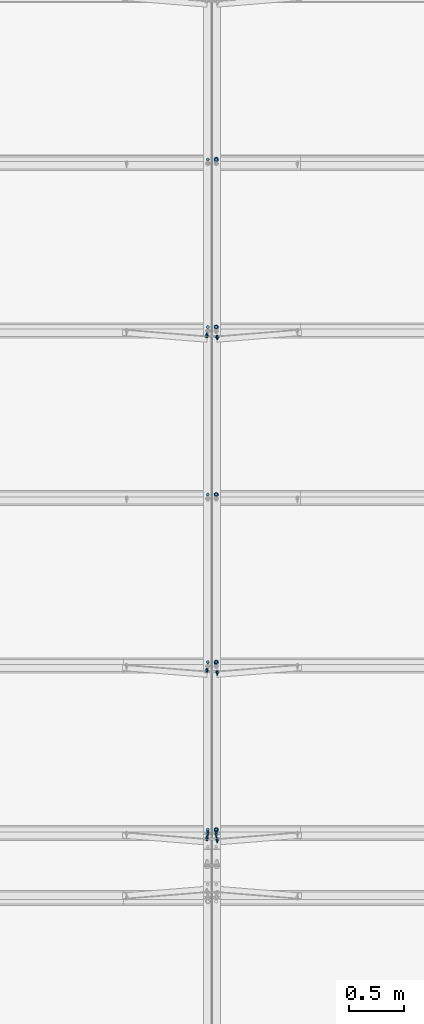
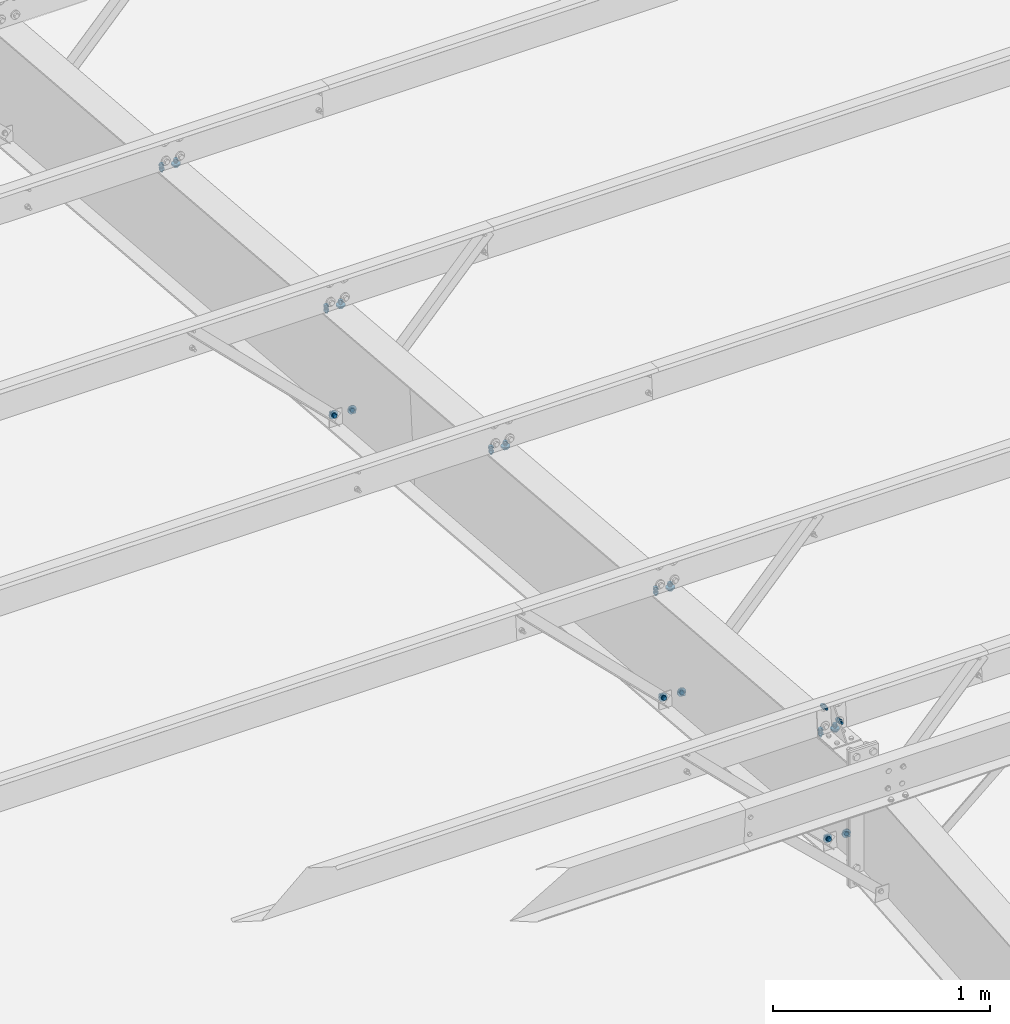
# One storey, part 157 of 185: 24 mechanical fasteners, 13 elements without a shape of their own.
"""IFC2X3 building model written with IfcOpenShell, lengths in millimetres."""

import ifcopenshell
import ifcopenshell.guid

model = None  # the IFC model being written
_history = None  # IfcOwnerHistory: only IFC2X3 demands one
_inside = {}  # id of a spatial element -> (the spatial element, [elements in it])
_under = {}  # id of a project, library or spatial element -> (it, [spatial elements below it])
_declared = {}  # id of a project -> (the project, [libraries it declares])
_typed = {}  # id of a type object -> (the type object, [elements of that type])
_made_of = {}  # id of a material, layer set ... -> (it, [elements and type objects made of it])


def new_model(schema):
    """Start an empty IFC model of exactly this schema.

    Asked for "IFC4X3", IfcOpenShell would pick the latest addendum, in which some entities
    have other attributes; the version numbers below select the first issue.
    IFC2X3 requires an IfcOwnerHistory on every rooted entity: one is made here for all.
    """
    global model, _history
    if schema == "IFC4X3":
        model = ifcopenshell.file(schema_version=(4, 3, 0, 0))
    else:
        model = ifcopenshell.file(schema=schema)
    _inside.clear()
    _under.clear()
    _declared.clear()
    _typed.clear()
    _made_of.clear()
    _history = None
    if model.schema == "IFC2X3":
        org = make("IfcOrganization", Name="unknown")
        user = make(
            "IfcPersonAndOrganization",
            ThePerson=make("IfcPerson", FamilyName="unknown"),
            TheOrganization=org,
        )
        app = make(
            "IfcApplication",
            ApplicationDeveloper=org,
            Version="unknown",
            ApplicationFullName="unknown",
            ApplicationIdentifier="unknown",
        )
        _history = make(
            "IfcOwnerHistory",
            OwningUser=user,
            OwningApplication=app,
            ChangeAction="ADDED",
            CreationDate=0,
        )
    return model


def make(cls, **values):
    """One entity of the class cls with the attributes given. An attribute that is None is left unset."""
    return model.create_entity(
        cls, **{name: value for name, value in values.items() if value is not None}
    )


def rooted(cls, **values):
    """An entity with a GlobalId (a new one), such as an element, a storey or a relation."""
    return make(cls, GlobalId=ifcopenshell.guid.new(), OwnerHistory=_history, **values)


def si_unit(unit_type, name, prefix=None):
    """IfcSIUnit, for example si_unit("LENGTHUNIT", "METRE", prefix="MILLI")."""
    return make("IfcSIUnit", UnitType=unit_type, Prefix=prefix, Name=name)


def assignment(units):
    """IfcUnitAssignment: the units of a project."""
    return None if units is None else make("IfcUnitAssignment", Units=units)


def point(xyz):
    """IfcCartesianPoint."""
    return None if xyz is None else make("IfcCartesianPoint", Coordinates=xyz)


def direction(xyz):
    """IfcDirection."""
    return None if xyz is None else make("IfcDirection", DirectionRatios=xyz)


def frame(location, z_axis=None, x_axis=None):
    """IfcAxis2Placement3D, a coordinate frame: its origin and axes. An axis left out is left unset."""
    return make(
        "IfcAxis2Placement3D",
        Location=point(location),
        Axis=direction(z_axis),
        RefDirection=direction(x_axis),
    )


def frame_2d(location, x_axis=None):
    """IfcAxis2Placement2D, a coordinate frame in the plane: its origin and x axis."""
    return make(
        "IfcAxis2Placement2D", Location=point(location), RefDirection=direction(x_axis)
    )


def origin_with_axes():
    """The frame at (0, 0, 0) with the z axis (0, 0, 1) and the x axis (1, 0, 0) written out."""
    return frame((0.0, 0.0, 0.0), z_axis=(0.0, 0.0, 1.0), x_axis=(1.0, 0.0, 0.0))


def origin_2d_with_axis():
    """The frame at (0, 0) in the plane with the x axis (1, 0) written out."""
    return frame_2d((0.0, 0.0), x_axis=(1.0, 0.0))


def place(relative_to, where):
    """IfcLocalPlacement: puts the frame where relative to a parent placement (None: the world)."""
    return make(
        "IfcLocalPlacement", PlacementRelTo=relative_to, RelativePlacement=where
    )


def context(
    kind, dimensions, precision=None, world=None, true_north=None, identifier=None
):
    """IfcGeometricRepresentationContext, for example the 3D "Model" context."""
    return make(
        "IfcGeometricRepresentationContext",
        ContextIdentifier=identifier,
        ContextType=kind,
        CoordinateSpaceDimension=dimensions,
        Precision=precision,
        WorldCoordinateSystem=world,
        TrueNorth=true_north,
    )


def subcontext(parent, identifier, kind, view, scale=None):
    """IfcGeometricRepresentationSubContext, for example "Body" below "Model"."""
    return make(
        "IfcGeometricRepresentationSubContext",
        ContextIdentifier=identifier,
        ContextType=kind,
        ParentContext=parent,
        TargetScale=scale,
        TargetView=view,
    )


def project(units=None, contexts=None):
    """IfcProject with its units and contexts."""
    return rooted(
        "IfcProject",
        Name="project",
        RepresentationContexts=contexts,
        UnitsInContext=assignment(units),
    )


def spatial(cls, under=None, at=None, **own):
    """A site, building, storey or space (cls), placed at a placement, below another one or the project."""
    s = rooted(cls, ObjectPlacement=at, **own)
    if under is not None:
        _under.setdefault(under.id(), (under, []))[1].append(s)
    return s


def polyline(points):
    """IfcPolyline through the points."""
    return make("IfcPolyline", Points=[point(p) for p in points])


def profile(cls, at=None, kind="AREA", **sizes):
    """A parametric profile (cls). Its sizes go by their IFC names, for example OverallWidth=200.0."""
    return make(cls, ProfileType=kind, Position=at, **sizes)


def circle(**sizes):
    """IfcCircleProfileDef."""
    return profile("IfcCircleProfileDef", **sizes)


def outline(outer, holes=None, kind="AREA"):
    """IfcArbitraryClosedProfileDef: a profile drawn as a closed curve; with holes, ...WithVoids."""
    if holes is None:
        return make("IfcArbitraryClosedProfileDef", ProfileType=kind, OuterCurve=outer)
    return make(
        "IfcArbitraryProfileDefWithVoids",
        ProfileType=kind,
        OuterCurve=outer,
        InnerCurves=holes,
    )


def extrude(swept, where, along, depth):
    """IfcExtrudedAreaSolid: the profile swept, set in the frame where, extruded along a direction by depth."""
    return make(
        "IfcExtrudedAreaSolid",
        SweptArea=swept,
        Position=where,
        ExtrudedDirection=direction(along),
        Depth=depth,
    )


def shape(context_of_items, identifier, shape_type, items):
    """IfcShapeRepresentation: the items that make up one representation, for example the "Body"."""
    return make(
        "IfcShapeRepresentation",
        ContextOfItems=context_of_items,
        RepresentationIdentifier=identifier,
        RepresentationType=shape_type,
        Items=items,
    )


def source(mapping_origin, context_of_items, identifier, shape_type, items):
    """IfcRepresentationMap: a shape defined once, which mapped items show again and again."""
    return make(
        "IfcRepresentationMap",
        MappingOrigin=mapping_origin,
        MappedRepresentation=shape(context_of_items, identifier, shape_type, items),
    )


def transform(
    local_origin,
    x_axis=None,
    y_axis=None,
    z_axis=None,
    scale=None,
    scale2=None,
    scale3=None,
    uniform=True,
):
    """IfcCartesianTransformationOperator3D, or its non-uniform kind. x_axis, y_axis, z_axis: its Axis1, 2, 3."""
    if uniform:
        return make(
            "IfcCartesianTransformationOperator3D",
            Axis1=direction(x_axis),
            Axis2=direction(y_axis),
            LocalOrigin=point(local_origin),
            Scale=scale,
            Axis3=direction(z_axis),
        )
    return make(
        "IfcCartesianTransformationOperator3DnonUniform",
        Axis1=direction(x_axis),
        Axis2=direction(y_axis),
        LocalOrigin=point(local_origin),
        Scale=scale,
        Axis3=direction(z_axis),
        Scale2=scale2,
        Scale3=scale3,
    )


def mapped(mapping_source, mapping_target):
    """IfcMappedItem: shows the shape of a source again, moved by a transform."""
    return make(
        "IfcMappedItem", MappingSource=mapping_source, MappingTarget=mapping_target
    )


def material(Name=None, Category=None):
    """IfcMaterial."""
    return make("IfcMaterial", Name=Name, Category=Category)


def made_of(thing, what):
    """Note that an element or type object is made of a material, layer set ...; save() writes the relation."""
    if what is not None:
        _made_of.setdefault(what.id(), (what, []))[1].append(thing)
    return thing


def type_object(cls, material=None, **own):
    """A type object (cls), such as IfcWallType, which elements share."""
    return made_of(rooted(cls, **own), material)


def element(
    cls,
    number,
    at=None,
    inside=None,
    cuts=None,
    type_object=None,
    material=None,
    context=None,
    identifier="Body",
    shape_type=None,
    held_by="IfcProductDefinitionShape",
    body=None,
    shapes=None,
    **own,
):
    """One element of the class cls, such as IfcWall. Its Tag is "e" and its number.

    at: its placement. inside: the storey or other place that contains it. cuts: it is an
    opening in that element (IfcRelVoidsElement). A single representation is given by context,
    identifier, shape_type and body (its items); several are given by shapes. held_by: the class
    of the entity that holds the representations. save() writes the other relations.
    """
    e = rooted(cls, Tag="e%d" % number, ObjectPlacement=at, **own)
    if body is not None:
        shapes = [shape(context, identifier, shape_type, body)]
    if shapes is not None:
        e.Representation = make(held_by, Representations=shapes)
    if inside is not None:
        _inside.setdefault(inside.id(), (inside, []))[1].append(e)
    if cuts is not None:
        rooted(
            "IfcRelVoidsElement", RelatingBuildingElement=cuts, RelatedOpeningElement=e
        )
    if type_object is not None:
        _typed.setdefault(type_object.id(), (type_object, []))[1].append(e)
    return made_of(e, material)


def aggregate(whole, parts):
    """IfcRelAggregates: a whole, such as a stair, and the parts it consists of."""
    return rooted("IfcRelAggregates", RelatingObject=whole, RelatedObjects=parts)


def save(model, path):
    """Write the relations noted so far, then the file.

    IfcRelAggregates (storeys below a building ...), IfcRelContainedInSpatialStructure (elements
    in a storey), IfcRelDefinesByType, IfcRelAssociatesMaterial and IfcRelDeclares: one each for
    every whole, place, type object, material and project.
    """
    for whole, parts in _under.values():
        aggregate(whole, parts)
    for where, things in _inside.values():
        rooted(
            "IfcRelContainedInSpatialStructure",
            RelatedElements=things,
            RelatingStructure=where,
        )
    for kind, things in _typed.values():
        rooted("IfcRelDefinesByType", RelatedObjects=things, RelatingType=kind)
    for what, things in _made_of.values():
        rooted("IfcRelAssociatesMaterial", RelatedObjects=things, RelatingMaterial=what)
    for by, libraries in _declared.values():
        rooted("IfcRelDeclares", RelatingContext=by, RelatedDefinitions=libraries)
    model.write(path)


model = new_model("IFC2X3")

# Units and contexts
model_context = context("Model", 3, precision=1e-05, world=origin_with_axes())
body_context = subcontext(model_context, "Body", "Model", "MODEL_VIEW")
ifc_project = project(units=[si_unit("LENGTHUNIT", "METRE", prefix="MILLI"), si_unit("AREAUNIT", "SQUARE_METRE"), si_unit("VOLUMEUNIT", "CUBIC_METRE"), si_unit("MASSUNIT", "GRAM", prefix="KILO"), si_unit("TIMEUNIT", "SECOND"), si_unit("PLANEANGLEUNIT", "RADIAN"), si_unit("SOLIDANGLEUNIT", "STERADIAN"), si_unit("THERMODYNAMICTEMPERATUREUNIT", "DEGREE_CELSIUS"), si_unit("LUMINOUSINTENSITYUNIT", "LUMEN")], contexts=[model_context])

# Site, building, storey
site_placement = place(None, origin_with_axes())
site = spatial("IfcSite", under=ifc_project, at=site_placement, Name="Undefined", CompositionType="ELEMENT")
building_placement = place(site_placement, origin_with_axes())
building = spatial("IfcBuilding", under=site, at=building_placement, Name="Undefined", CompositionType="ELEMENT")
storey_placement = place(building_placement, origin_with_axes())
storey = spatial("IfcBuildingStorey", under=building, at=storey_placement, Name="Undefined", CompositionType="ELEMENT", Elevation=0.0)

# Assembly, mechanical fastener
assembly_1_placement = place(storey_placement, origin_with_axes())
assembly_1 = element("IfcElementAssembly", 1, at=assembly_1_placement, inside=storey, Name="Steel Assembly", AssemblyPlace="NOTDEFINED", PredefinedType="RIGID_FRAME")
ifc_material_1 = material(Name="Undefined")
discrete_accessory_type = type_object("IfcDiscreteAccessoryType", Name="Bolt assembly")
shared_shape_1 = source(origin_with_axes(), body_context, "Body", "SweptSolid", [
    extrude(circle(Radius=7.14374971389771, at=origin_2d_with_axis()), frame((0.0, -1.59000001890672, 0.0), z_axis=(0.0, 1.0, 0.0), x_axis=(1.0, 0.0, 0.0)), (0.0, 0.0, 1.0), 1.7),
    extrude(outline(polyline([(10.9985221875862, 0.0), (5.4992610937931, 9.52499961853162), (-5.4992610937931, 9.52499961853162), (-10.9985221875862, 0.0), (-5.4992610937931, -9.52499961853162), (5.4992610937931, -9.52499961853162), (10.9985221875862, 0.0)])), frame((0.0, -15.0837496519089, 0.0), z_axis=(0.0, 1.0, 0.0), x_axis=(1.0, 0.0, 0.0)), (0.0, 0.0, 1.0), 9.5),
    extrude(circle(Radius=6.34999990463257, at=origin_2d_with_axis()), frame((0.0, -5.5587500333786, 0.0), z_axis=(0.0, 1.0, 0.0), x_axis=(1.0, 0.0, 0.0)), (0.0, 0.0, 1.0), 38.1),
    extrude(circle(Radius=13.4937496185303, at=origin_2d_with_axis()), frame((0.0, -5.5587500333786, 0.0), z_axis=(0.0, 1.0, 0.0), x_axis=(1.0, 0.0, 0.0)), (0.0, 0.0, 1.0), 4.0),
    extrude(circle(Radius=22.2250003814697, at=origin_2d_with_axis()), frame((0.0, 0.0, 0.0), z_axis=(0.0, 1.0, 0.0), x_axis=(1.0, 0.0, 0.0)), (0.0, 0.0, 1.0), 7.9),
    extrude(outline(polyline([(12.8316099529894, 0.0), (6.4158049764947, 11.1125001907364), (-6.4158049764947, 11.1125001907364), (-12.8316099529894, 0.0), (-6.4158049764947, -11.1125001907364), (6.4158049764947, -11.1125001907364), (12.8316099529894, 0.0)])), frame((0.0, 7.93750000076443, 0.0), z_axis=(0.0, 1.0, 0.0), x_axis=(1.0, 0.0, 0.0)), (0.0, 0.0, 1.0), 12.3),
])
mechanical_fastener_1_placement = place(assembly_1_placement, frame((22432.1255043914, 16242.6547918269, 6647.0846051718), z_axis=(-0.697745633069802, -0.0594892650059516, -0.713871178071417), x_axis=(-0.716345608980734, 0.0579446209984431, 0.6953354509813)))
mechanical_fastener_1 = element("IfcMechanicalFastener", 2, at=mechanical_fastener_1_placement, type_object=discrete_accessory_type, material=ifc_material_1, Name="Bolt assembly", NominalDiameter=12.6999998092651, NominalLength=38.0999984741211, context=body_context, shape_type="MappedRepresentation", body=[
    mapped(shared_shape_1, transform((0.0, 0.0, 0.0))),
])
aggregate(assembly_1, [mechanical_fastener_1])

assembly_2_placement = place(storey_placement, origin_with_axes())
assembly_2 = element("IfcElementAssembly", 3, at=assembly_2_placement, inside=storey, Name="Steel Assembly", AssemblyPlace="NOTDEFINED", PredefinedType="RIGID_FRAME")
mechanical_fastener_2_placement = place(assembly_2_placement, frame((22432.1255043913, 17761.3905273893, 6520.52329387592), z_axis=(-0.697745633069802, -0.0594892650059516, -0.713871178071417), x_axis=(-0.716345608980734, 0.0579446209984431, 0.6953354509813)))
mechanical_fastener_2 = element("IfcMechanicalFastener", 4, at=mechanical_fastener_2_placement, type_object=discrete_accessory_type, material=ifc_material_1, Name="Bolt assembly", NominalDiameter=12.6999998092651, NominalLength=38.0999984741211, context=body_context, shape_type="MappedRepresentation", body=[
    mapped(shared_shape_1, transform((0.0, 0.0, 0.0))),
])
aggregate(assembly_2, [mechanical_fastener_2])

assembly_3_placement = place(storey_placement, origin_with_axes())
assembly_3 = element("IfcElementAssembly", 5, at=assembly_3_placement, inside=storey, Name="Steel Assembly", AssemblyPlace="NOTDEFINED", PredefinedType="RIGID_FRAME")
mechanical_fastener_3_placement = place(assembly_3_placement, frame((22432.1255043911, 20798.861998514, 6267.40067128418), z_axis=(-0.697745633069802, -0.0594892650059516, -0.713871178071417), x_axis=(-0.716345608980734, 0.0579446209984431, 0.6953354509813)))
mechanical_fastener_3 = element("IfcMechanicalFastener", 6, at=mechanical_fastener_3_placement, type_object=discrete_accessory_type, material=ifc_material_1, Name="Bolt assembly", NominalDiameter=12.6999998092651, NominalLength=38.0999984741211, context=body_context, shape_type="MappedRepresentation", body=[
    mapped(shared_shape_1, transform((0.0, 0.0, 0.0))),
])
aggregate(assembly_3, [mechanical_fastener_3])

assembly_4_placement = place(storey_placement, origin_with_axes())
assembly_4 = element("IfcElementAssembly", 7, at=assembly_4_placement, inside=storey, Name="Steel Assembly", AssemblyPlace="NOTDEFINED", PredefinedType="RIGID_FRAME")
shared_shape_2 = source(origin_with_axes(), body_context, "Body", "SweptSolid", [
    extrude(circle(Radius=7.14374971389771, at=origin_2d_with_axis()), frame((0.0, 0.0, 0.0), z_axis=(0.0, 1.0, 0.0), x_axis=(1.0, 0.0, 0.0)), (0.0, 0.0, 1.0), 1.7),
    extrude(outline(polyline([(10.9985221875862, 0.0), (5.4992610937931, 9.52499961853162), (-5.4992610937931, 9.52499961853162), (-10.9985221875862, 0.0), (-5.4992610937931, -9.52499961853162), (5.4992610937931, -9.52499961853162), (10.9985221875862, 0.0)])), frame((0.0, -13.4937496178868, 0.0), z_axis=(0.0, 1.0, 0.0), x_axis=(1.0, 0.0, 0.0)), (0.0, 0.0, 1.0), 9.5),
    extrude(circle(Radius=6.34999990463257, at=origin_2d_with_axis()), frame((0.0, -3.96874999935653, 0.0), z_axis=(0.0, 1.0, 0.0), x_axis=(1.0, 0.0, 0.0)), (0.0, 0.0, 1.0), 38.1),
    extrude(circle(Radius=13.4937496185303, at=origin_2d_with_axis()), frame((0.0, -3.96874999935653, 0.0), z_axis=(0.0, 1.0, 0.0), x_axis=(1.0, 0.0, 0.0)), (0.0, 0.0, 1.0), 4.0),
    extrude(circle(Radius=22.2250003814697, at=origin_2d_with_axis()), frame((0.0, 1.5900000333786, 0.0), z_axis=(0.0, 1.0, 0.0), x_axis=(1.0, 0.0, 0.0)), (0.0, 0.0, 1.0), 7.9),
    extrude(outline(polyline([(12.8316099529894, 0.0), (6.4158049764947, 11.1125001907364), (-6.4158049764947, 11.1125001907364), (-12.8316099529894, 0.0), (-6.4158049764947, -11.1125001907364), (6.4158049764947, -11.1125001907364), (12.8316099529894, 0.0)])), frame((0.0, 9.5275000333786, 0.0), z_axis=(0.0, 1.0, 0.0), x_axis=(1.0, 0.0, 0.0)), (0.0, 0.0, 1.0), 12.3),
])
mechanical_fastener_4_placement = place(assembly_4_placement, frame((22525.8744956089, 20798.8619985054, 6267.40067128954), z_axis=(0.697745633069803, -0.0594892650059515, -0.713871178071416), x_axis=(0.716345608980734, 0.0579446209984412, 0.6953354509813)))
mechanical_fastener_4 = element("IfcMechanicalFastener", 8, at=mechanical_fastener_4_placement, type_object=discrete_accessory_type, material=ifc_material_1, Name="Bolt assembly", NominalDiameter=12.6999998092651, NominalLength=38.0999984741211, context=body_context, shape_type="MappedRepresentation", body=[
    mapped(shared_shape_2, transform((0.0, 0.0, 0.0))),
])
aggregate(assembly_4, [mechanical_fastener_4])

assembly_5_placement = place(storey_placement, origin_with_axes())
assembly_5 = element("IfcElementAssembly", 9, at=assembly_5_placement, inside=storey, Name="Steel Assembly", AssemblyPlace="NOTDEFINED", PredefinedType="RIGID_FRAME")
mechanical_fastener_5_placement = place(assembly_5_placement, frame((22525.8744956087, 17761.3905273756, 6520.52329388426), z_axis=(0.697745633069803, -0.0594892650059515, -0.713871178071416), x_axis=(0.716345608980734, 0.0579446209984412, 0.6953354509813)))
mechanical_fastener_5 = element("IfcMechanicalFastener", 10, at=mechanical_fastener_5_placement, type_object=discrete_accessory_type, material=ifc_material_1, Name="Bolt assembly", NominalDiameter=12.6999998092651, NominalLength=38.0999984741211, context=body_context, shape_type="MappedRepresentation", body=[
    mapped(shared_shape_2, transform((0.0, 0.0, 0.0))),
])
aggregate(assembly_5, [mechanical_fastener_5])

assembly_6_placement = place(storey_placement, origin_with_axes())
assembly_6 = element("IfcElementAssembly", 11, at=assembly_6_placement, inside=storey, Name="Steel Assembly", AssemblyPlace="NOTDEFINED", PredefinedType="RIGID_FRAME")
mechanical_fastener_6_placement = place(assembly_6_placement, frame((22525.8744956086, 16242.6547918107, 6647.08460518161), z_axis=(0.697745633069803, -0.0594892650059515, -0.713871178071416), x_axis=(0.716345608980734, 0.0579446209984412, 0.6953354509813)))
mechanical_fastener_6 = element("IfcMechanicalFastener", 12, at=mechanical_fastener_6_placement, type_object=discrete_accessory_type, material=ifc_material_1, Name="Bolt assembly", NominalDiameter=12.6999998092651, NominalLength=38.0999984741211, context=body_context, shape_type="MappedRepresentation", body=[
    mapped(shared_shape_2, transform((0.0, 0.0, 0.0))),
])
aggregate(assembly_6, [mechanical_fastener_6])

# Assembly, mechanical fasteners
assembly_7_placement = place(storey_placement, origin_with_axes())
assembly_7 = element("IfcElementAssembly", 13, at=assembly_7_placement, inside=storey, Name="Steel Assembly", AssemblyPlace="NOTDEFINED", PredefinedType="RIGID_FRAME")
ifc_material_2 = material(Name="7990")
shared_shape_3 = source(origin_with_axes(), body_context, "Body", "SweptSolid", [
    extrude(circle(Radius=7.14374971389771, at=origin_2d_with_axis()), frame((0.0, -3.41600000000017, 0.0), z_axis=(0.0, 1.0, 0.0), x_axis=(1.0, 0.0, 0.0)), (0.0, 0.0, 1.0), 3.5),
    extrude(circle(Radius=11.4299998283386, at=origin_2d_with_axis()), frame((0.0, 0.0, 0.0), z_axis=(0.0, 1.0, 0.0), x_axis=(1.0, 0.0, 0.0)), (0.0, 0.0, 1.0), 4.2),
    extrude(outline(polyline([(12.171698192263, 0.0), (6.08584909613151, 10.5409998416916), (-6.08584909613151, 10.5409998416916), (-12.171698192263, 0.0), (-6.08584909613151, -10.5409998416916), (6.08584909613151, -10.5409998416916), (12.171698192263, 0.0)])), frame((0.0, 4.1909999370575, 0.0), z_axis=(0.0, 1.0, 0.0), x_axis=(1.0, 0.0, 0.0)), (0.0, 0.0, 1.0), 8.4),
])
mechanical_fastener_7_placement = place(assembly_7_placement, frame((22525.15815, 16242.5968471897, 6646.3892697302), z_axis=(-0.921635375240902, -0.0322263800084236, -0.386716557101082), x_axis=(0.388056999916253, -0.0765376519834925, -0.918451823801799)))
mechanical_fastener_7 = element("IfcMechanicalFastener", 14, at=mechanical_fastener_7_placement, type_object=discrete_accessory_type, material=ifc_material_2, Name="Bolt assembly", NominalDiameter=12.6999998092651, NominalLength=38.0999984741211, context=body_context, shape_type="MappedRepresentation", body=[
    mapped(shared_shape_3, transform((0.0, 0.0, 0.0))),
])
mechanical_fastener_8_placement = place(assembly_7_placement, frame((22525.15815, 17761.3325827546, 6519.82795843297), z_axis=(-0.921635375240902, -0.0322263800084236, -0.386716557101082), x_axis=(0.388056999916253, -0.0765376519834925, -0.918451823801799)))
mechanical_fastener_8 = element("IfcMechanicalFastener", 15, at=mechanical_fastener_8_placement, type_object=discrete_accessory_type, material=ifc_material_2, Name="Bolt assembly", NominalDiameter=12.6999998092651, NominalLength=38.0999984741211, context=body_context, shape_type="MappedRepresentation", body=[
    mapped(shared_shape_3, transform((0.0, 0.0, 0.0))),
])
mechanical_fastener_9_placement = place(assembly_7_placement, frame((22525.15815, 20798.8040538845, 6266.70533583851), z_axis=(-0.921635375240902, -0.0322263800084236, -0.386716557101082), x_axis=(0.388056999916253, -0.0765376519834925, -0.918451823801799)))
mechanical_fastener_9 = element("IfcMechanicalFastener", 16, at=mechanical_fastener_9_placement, type_object=discrete_accessory_type, material=ifc_material_2, Name="Bolt assembly", NominalDiameter=12.6999998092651, NominalLength=38.0999984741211, context=body_context, shape_type="MappedRepresentation", body=[
    mapped(shared_shape_3, transform((0.0, 0.0, 0.0))),
])
shared_shape_4 = source(origin_with_axes(), body_context, "Body", "SweptSolid", [
    extrude(circle(Radius=7.14374971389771, at=origin_2d_with_axis()), frame((0.0, 0.0, 0.0), z_axis=(0.0, 1.0, 0.0), x_axis=(1.0, 0.0, 0.0)), (0.0, 0.0, 1.0), 3.5),
    extrude(circle(Radius=11.4299998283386, at=origin_2d_with_axis()), frame((0.0, 3.41600000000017, 0.0), z_axis=(0.0, 1.0, 0.0), x_axis=(1.0, 0.0, 0.0)), (0.0, 0.0, 1.0), 4.2),
    extrude(outline(polyline([(12.171698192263, 0.0), (6.08584909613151, 10.5409998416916), (-6.08584909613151, 10.5409998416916), (-12.171698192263, 0.0), (-6.08584909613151, -10.5409998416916), (6.08584909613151, -10.5409998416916), (12.171698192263, 0.0)])), frame((0.0, 7.60699993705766, 0.0), z_axis=(0.0, 1.0, 0.0), x_axis=(1.0, 0.0, 0.0)), (0.0, 0.0, 1.0), 8.4),
])
mechanical_fastener_10_placement = place(assembly_7_placement, frame((22432.84185, 16242.5968471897, 6646.3892697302), z_axis=(0.921635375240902, -0.0322263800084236, -0.386716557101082), x_axis=(-0.388056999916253, -0.0765376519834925, -0.918451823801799)))
mechanical_fastener_10 = element("IfcMechanicalFastener", 17, at=mechanical_fastener_10_placement, type_object=discrete_accessory_type, material=ifc_material_2, Name="Bolt assembly", NominalDiameter=12.6999998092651, NominalLength=38.0999984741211, context=body_context, shape_type="MappedRepresentation", body=[
    mapped(shared_shape_4, transform((0.0, 0.0, 0.0))),
])
mechanical_fastener_11_placement = place(assembly_7_placement, frame((22432.84185, 17761.3325827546, 6519.82795843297), z_axis=(0.921635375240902, -0.0322263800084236, -0.386716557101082), x_axis=(-0.388056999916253, -0.0765376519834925, -0.918451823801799)))
mechanical_fastener_11 = element("IfcMechanicalFastener", 18, at=mechanical_fastener_11_placement, type_object=discrete_accessory_type, material=ifc_material_2, Name="Bolt assembly", NominalDiameter=12.6999998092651, NominalLength=38.0999984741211, context=body_context, shape_type="MappedRepresentation", body=[
    mapped(shared_shape_4, transform((0.0, 0.0, 0.0))),
])
mechanical_fastener_12_placement = place(assembly_7_placement, frame((22432.84185, 20798.8040538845, 6266.70533583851), z_axis=(0.921635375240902, -0.0322263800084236, -0.386716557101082), x_axis=(-0.388056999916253, -0.0765376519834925, -0.918451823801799)))
mechanical_fastener_12 = element("IfcMechanicalFastener", 19, at=mechanical_fastener_12_placement, type_object=discrete_accessory_type, material=ifc_material_2, Name="Bolt assembly", NominalDiameter=12.6999998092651, NominalLength=38.0999984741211, context=body_context, shape_type="MappedRepresentation", body=[
    mapped(shared_shape_4, transform((0.0, 0.0, 0.0))),
])
aggregate(assembly_7, [mechanical_fastener_10, mechanical_fastener_7, mechanical_fastener_11, mechanical_fastener_8, mechanical_fastener_12, mechanical_fastener_9])

assembly_8_placement = place(storey_placement, origin_with_axes())
assembly_8 = element("IfcElementAssembly", 20, at=assembly_8_placement, inside=storey, Name="Steel Assembly", AssemblyPlace="NOTDEFINED", PredefinedType="RIGID_FRAME")
shared_shape_5 = source(origin_with_axes(), body_context, "Body", "SweptSolid", [
    extrude(circle(Radius=7.14374971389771, at=origin_2d_with_axis()), frame((0.0, 0.0, 0.0), z_axis=(0.0, 1.0, 0.0), x_axis=(1.0, 0.0, 0.0)), (0.0, 0.0, 1.0), 6.5),
    extrude(outline(polyline([(10.9985221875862, 0.0), (5.4992610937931, 9.52499961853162), (-5.4992610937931, 9.52499961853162), (-10.9985221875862, 0.0), (-5.4992610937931, -9.52499961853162), (5.4992610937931, -9.52499961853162), (10.9985221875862, 0.0)])), frame((0.0, -13.4937496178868, 0.0), z_axis=(0.0, 1.0, 0.0), x_axis=(1.0, 0.0, 0.0)), (0.0, 0.0, 1.0), 9.5),
    extrude(circle(Radius=6.34999990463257, at=origin_2d_with_axis()), frame((0.0, -3.96874999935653, 0.0), z_axis=(0.0, 1.0, 0.0), x_axis=(1.0, 0.0, 0.0)), (0.0, 0.0, 1.0), 38.1),
    extrude(circle(Radius=13.4937496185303, at=origin_2d_with_axis()), frame((0.0, -3.96874999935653, 0.0), z_axis=(0.0, 1.0, 0.0), x_axis=(1.0, 0.0, 0.0)), (0.0, 0.0, 1.0), 4.0),
    extrude(outline(polyline([(12.8316099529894, 0.0), (6.4158049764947, 11.1125001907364), (-6.4158049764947, 11.1125001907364), (-12.8316099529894, 0.0), (-6.4158049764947, -11.1125001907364), (6.4158049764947, -11.1125001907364), (12.8316099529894, 0.0)])), frame((0.0, 6.35000000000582, 0.0), z_axis=(0.0, 1.0, 0.0), x_axis=(1.0, 0.0, 0.0)), (0.0, 0.0, 1.0), 12.3),
])
mechanical_fastener_13_placement = place(assembly_8_placement, frame((22517.1, 16293.0905915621, 7252.31420217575), z_axis=(-1.0, 0.0, 0.0), x_axis=(0.0, -0.0830454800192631, -0.996545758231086)))
mechanical_fastener_13 = element("IfcMechanicalFastener", 21, at=mechanical_fastener_13_placement, type_object=discrete_accessory_type, material=ifc_material_1, Name="Bolt assembly", NominalDiameter=12.6999998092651, NominalLength=38.0999984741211, context=body_context, shape_type="MappedRepresentation", body=[
    mapped(shared_shape_5, transform((0.0, 0.0, 0.0))),
])
shared_shape_6 = source(origin_with_axes(), body_context, "Body", "SweptSolid", [
    extrude(circle(Radius=7.14374971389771, at=origin_2d_with_axis()), frame((0.0, 0.0, 0.0), z_axis=(0.0, 1.0, 0.0), x_axis=(1.0, 0.0, 0.0)), (0.0, 0.0, 1.0), 6.4),
    extrude(outline(polyline([(10.9985221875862, 0.0), (5.4992610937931, 9.52499961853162), (-5.4992610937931, 9.52499961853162), (-10.9985221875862, 0.0), (-5.4992610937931, -9.52499961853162), (5.4992610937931, -9.52499961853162), (10.9985221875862, 0.0)])), frame((0.0, -13.4937496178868, 0.0), z_axis=(0.0, 1.0, 0.0), x_axis=(1.0, 0.0, 0.0)), (0.0, 0.0, 1.0), 9.5),
    extrude(circle(Radius=6.34999990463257, at=origin_2d_with_axis()), frame((0.0, -3.96874999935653, 0.0), z_axis=(0.0, 1.0, 0.0), x_axis=(1.0, 0.0, 0.0)), (0.0, 0.0, 1.0), 38.1),
    extrude(circle(Radius=13.4937496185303, at=origin_2d_with_axis()), frame((0.0, -3.96874999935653, 0.0), z_axis=(0.0, 1.0, 0.0), x_axis=(1.0, 0.0, 0.0)), (0.0, 0.0, 1.0), 4.0),
    extrude(outline(polyline([(12.8316099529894, 0.0), (6.4158049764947, 11.1125001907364), (-6.4158049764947, 11.1125001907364), (-12.8316099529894, 0.0), (-6.4158049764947, -11.1125001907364), (6.4158049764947, -11.1125001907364), (12.8316099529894, 0.0)])), frame((0.0, 6.35000000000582, 0.0), z_axis=(0.0, 1.0, 0.0), x_axis=(1.0, 0.0, 0.0)), (0.0, 0.0, 1.0), 12.3),
])
mechanical_fastener_14_placement = place(assembly_8_placement, frame((22440.9, 16301.5280123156, 7353.56325121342), z_axis=(-1.0, 0.0, 0.0), x_axis=(0.0, -0.0830454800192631, -0.996545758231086)))
mechanical_fastener_14 = element("IfcMechanicalFastener", 22, at=mechanical_fastener_14_placement, type_object=discrete_accessory_type, material=ifc_material_1, Name="Bolt assembly", NominalDiameter=12.6999998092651, NominalLength=38.0999984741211, context=body_context, shape_type="MappedRepresentation", body=[
    mapped(shared_shape_6, transform((0.0, 0.0, 0.0))),
])
aggregate(assembly_8, [mechanical_fastener_13, mechanical_fastener_14])

# Assembly, mechanical fastener
assembly_9_placement = place(storey_placement, origin_with_axes())
assembly_9 = element("IfcElementAssembly", 23, at=assembly_9_placement, inside=storey, Name="Steel Assembly", AssemblyPlace="NOTDEFINED", PredefinedType="RIGID_FRAME")
shared_shape_7 = source(origin_with_axes(), body_context, "Body", "SweptSolid", [
    extrude(circle(Radius=7.14374971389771, at=origin_2d_with_axis()), frame((0.0, -0.0238014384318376, 0.0), z_axis=(0.0, 1.0, 0.0), x_axis=(1.0, 0.0, 0.0)), (0.0, 0.0, 1.0), 8.0),
    extrude(circle(Radius=7.14374971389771, at=origin_2d_with_axis()), frame((0.0, -3.08000006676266, 0.0), z_axis=(0.0, 1.0, 0.0), x_axis=(1.0, 0.0, 0.0)), (0.0, 0.0, 1.0), 3.2),
    extrude(circle(Radius=7.14374971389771, at=origin_2d_with_axis()), frame((0.0, -3.08000006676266, 0.0), z_axis=(0.0, 1.0, 0.0), x_axis=(1.0, 0.0, 0.0)), (0.0, 0.0, 1.0), 3.2),
    extrude(outline(polyline([(10.9985221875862, 0.0), (5.4992610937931, 9.52499961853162), (-5.4992610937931, 9.52499961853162), (-10.9985221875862, 0.0), (-5.4992610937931, -9.52499961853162), (5.4992610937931, -9.52499961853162), (10.9985221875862, 0.0)])), frame((0.0, -16.6737496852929, 0.0), z_axis=(0.0, 1.0, 0.0), x_axis=(1.0, 0.0, 0.0)), (0.0, 0.0, 1.0), 9.5),
    extrude(circle(Radius=6.34999990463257, at=origin_2d_with_axis()), frame((0.0, -7.14875006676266, 0.0), z_axis=(0.0, 1.0, 0.0), x_axis=(1.0, 0.0, 0.0)), (0.0, 0.0, 1.0), 38.1),
    extrude(circle(Radius=13.4937496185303, at=origin_2d_with_axis()), frame((0.0, -7.14875006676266, 0.0), z_axis=(0.0, 1.0, 0.0), x_axis=(1.0, 0.0, 0.0)), (0.0, 0.0, 1.0), 4.0),
    extrude(circle(Radius=22.2250003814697, at=origin_2d_with_axis()), frame((0.0, 7.95019856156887, 0.0), z_axis=(0.0, 1.0, 0.0), x_axis=(1.0, 0.0, 0.0)), (0.0, 0.0, 1.0), 7.9),
    extrude(outline(polyline([(12.8316099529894, 0.0), (6.4158049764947, 11.1125001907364), (-6.4158049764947, 11.1125001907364), (-12.8316099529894, 0.0), (-6.4158049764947, -11.1125001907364), (6.4158049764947, -11.1125001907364), (12.8316099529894, 0.0)])), frame((0.0, 15.8876985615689, 0.0), z_axis=(0.0, 1.0, 0.0), x_axis=(1.0, 0.0, 0.0)), (0.0, 0.0, 1.0), 12.3),
])
mechanical_fastener_15_placement = place(assembly_9_placement, frame((22517.1, 16326.8402745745, 7198.52564487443), z_axis=(-1.0, 0.0, 0.0), x_axis=(0.0, 0.996545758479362, -0.0830454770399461)))
mechanical_fastener_15 = element("IfcMechanicalFastener", 24, at=mechanical_fastener_15_placement, type_object=discrete_accessory_type, material=ifc_material_1, Name="Bolt assembly", NominalDiameter=12.6999998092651, NominalLength=38.0999984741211, context=body_context, shape_type="MappedRepresentation", body=[
    mapped(shared_shape_7, transform((0.0, 0.0, 0.0))),
])

assembly_10_placement = place(storey_placement, origin_with_axes())
assembly_10 = element("IfcElementAssembly", 25, at=assembly_10_placement, inside=storey, Name="Steel Assembly", AssemblyPlace="NOTDEFINED", PredefinedType="RIGID_FRAME")
mechanical_fastener_16_placement = place(assembly_10_placement, frame((22517.1, 17845.5760101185, 7071.96433332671), z_axis=(-1.0, 0.0, 0.0), x_axis=(0.0, 0.996545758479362, -0.0830454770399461)))
mechanical_fastener_16 = element("IfcMechanicalFastener", 26, at=mechanical_fastener_16_placement, type_object=discrete_accessory_type, material=ifc_material_1, Name="Bolt assembly", NominalDiameter=12.6999998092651, NominalLength=38.0999984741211, context=body_context, shape_type="MappedRepresentation", body=[
    mapped(shared_shape_7, transform((0.0, 0.0, 0.0))),
])

assembly_11_placement = place(storey_placement, origin_with_axes())
assembly_11 = element("IfcElementAssembly", 27, at=assembly_11_placement, inside=storey, Name="Steel Assembly", AssemblyPlace="NOTDEFINED", PredefinedType="RIGID_FRAME")
mechanical_fastener_17_placement = place(assembly_11_placement, frame((22517.1, 19364.3117456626, 6945.40302177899), z_axis=(-1.0, 0.0, 0.0), x_axis=(0.0, 0.996545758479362, -0.0830454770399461)))
mechanical_fastener_17 = element("IfcMechanicalFastener", 28, at=mechanical_fastener_17_placement, type_object=discrete_accessory_type, material=ifc_material_1, Name="Bolt assembly", NominalDiameter=12.6999998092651, NominalLength=38.0999984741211, context=body_context, shape_type="MappedRepresentation", body=[
    mapped(shared_shape_7, transform((0.0, 0.0, 0.0))),
])

assembly_12_placement = place(storey_placement, origin_with_axes())
assembly_12 = element("IfcElementAssembly", 29, at=assembly_12_placement, inside=storey, Name="Steel Assembly", AssemblyPlace="NOTDEFINED", PredefinedType="RIGID_FRAME")
mechanical_fastener_18_placement = place(assembly_12_placement, frame((22517.1, 22401.7832167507, 6692.28039868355), z_axis=(-1.0, 0.0, 0.0), x_axis=(0.0, 0.996545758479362, -0.0830454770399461)))
mechanical_fastener_18 = element("IfcMechanicalFastener", 30, at=mechanical_fastener_18_placement, type_object=discrete_accessory_type, material=ifc_material_1, Name="Bolt assembly", NominalDiameter=12.6999998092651, NominalLength=38.0999984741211, context=body_context, shape_type="MappedRepresentation", body=[
    mapped(shared_shape_7, transform((0.0, 0.0, 0.0))),
])

assembly_13_placement = place(storey_placement, origin_with_axes())
assembly_13 = element("IfcElementAssembly", 31, at=assembly_13_placement, inside=storey, Name="Steel Assembly", AssemblyPlace="NOTDEFINED", PredefinedType="RIGID_FRAME")
mechanical_fastener_19_placement = place(assembly_13_placement, frame((22517.1, 20883.0474812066, 6818.84171023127), z_axis=(-1.0, 0.0, 0.0), x_axis=(0.0, 0.996545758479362, -0.0830454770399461)))
mechanical_fastener_19 = element("IfcMechanicalFastener", 32, at=mechanical_fastener_19_placement, type_object=discrete_accessory_type, material=ifc_material_1, Name="Bolt assembly", NominalDiameter=12.6999998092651, NominalLength=38.0999984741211, context=body_context, shape_type="MappedRepresentation", body=[
    mapped(shared_shape_7, transform((0.0, 0.0, 0.0))),
])

# Mechanical fastener
shared_shape_8 = source(origin_with_axes(), body_context, "Body", "SweptSolid", [
    extrude(circle(Radius=7.14374971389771, at=origin_2d_with_axis()), frame((0.0, -0.0238014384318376, 0.0), z_axis=(0.0, 1.0, 0.0), x_axis=(1.0, 0.0, 0.0)), (0.0, 0.0, 1.0), 8.0),
    extrude(circle(Radius=7.14374971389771, at=origin_2d_with_axis()), frame((0.0, -3.08000006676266, 0.0), z_axis=(0.0, 1.0, 0.0), x_axis=(1.0, 0.0, 0.0)), (0.0, 0.0, 1.0), 3.2),
    extrude(circle(Radius=7.14374971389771, at=origin_2d_with_axis()), frame((0.0, -3.08000006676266, 0.0), z_axis=(0.0, 1.0, 0.0), x_axis=(1.0, 0.0, 0.0)), (0.0, 0.0, 1.0), 3.2),
    extrude(outline(polyline([(10.9985221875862, 0.0), (5.4992610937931, 9.52499961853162), (-5.4992610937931, 9.52499961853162), (-10.9985221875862, 0.0), (-5.4992610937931, -9.52499961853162), (5.4992610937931, -9.52499961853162), (10.9985221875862, 0.0)])), frame((0.0, -16.6737496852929, 0.0), z_axis=(0.0, 1.0, 0.0), x_axis=(1.0, 0.0, 0.0)), (0.0, 0.0, 1.0), 9.5),
    extrude(circle(Radius=6.34999990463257, at=origin_2d_with_axis()), frame((0.0, -7.14875006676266, 0.0), z_axis=(0.0, 1.0, 0.0), x_axis=(1.0, 0.0, 0.0)), (0.0, 0.0, 1.0), 38.1),
    extrude(circle(Radius=13.4937496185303, at=origin_2d_with_axis()), frame((0.0, -7.14875006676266, 0.0), z_axis=(0.0, 1.0, 0.0), x_axis=(1.0, 0.0, 0.0)), (0.0, 0.0, 1.0), 4.0),
    extrude(outline(polyline([(12.8316099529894, 0.0), (6.4158049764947, 11.1125001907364), (-6.4158049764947, 11.1125001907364), (-12.8316099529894, 0.0), (-6.4158049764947, -11.1125001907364), (6.4158049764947, -11.1125001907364), (12.8316099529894, 0.0)])), frame((0.0, 7.95019856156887, 0.0), z_axis=(0.0, 1.0, 0.0), x_axis=(1.0, 0.0, 0.0)), (0.0, 0.0, 1.0), 12.3),
])
mechanical_fastener_20_placement = place(assembly_9_placement, frame((22440.9, 16326.8402745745, 7198.52564487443), z_axis=(-1.0, 0.0, 0.0), x_axis=(0.0, 0.996545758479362, -0.0830454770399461)))
mechanical_fastener_20 = element("IfcMechanicalFastener", 33, at=mechanical_fastener_20_placement, type_object=discrete_accessory_type, material=ifc_material_1, Name="Bolt assembly", NominalDiameter=12.6999998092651, NominalLength=38.0999984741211, context=body_context, shape_type="MappedRepresentation", body=[
    mapped(shared_shape_8, transform((0.0, 0.0, 0.0))),
])

aggregate(assembly_9, [mechanical_fastener_15, mechanical_fastener_20])

mechanical_fastener_21_placement = place(assembly_10_placement, frame((22440.9, 17845.5760101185, 7071.96433332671), z_axis=(-1.0, 0.0, 0.0), x_axis=(0.0, 0.996545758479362, -0.0830454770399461)))
mechanical_fastener_21 = element("IfcMechanicalFastener", 34, at=mechanical_fastener_21_placement, type_object=discrete_accessory_type, material=ifc_material_1, Name="Bolt assembly", NominalDiameter=12.6999998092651, NominalLength=38.0999984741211, context=body_context, shape_type="MappedRepresentation", body=[
    mapped(shared_shape_8, transform((0.0, 0.0, 0.0))),
])

aggregate(assembly_10, [mechanical_fastener_16, mechanical_fastener_21])

mechanical_fastener_22_placement = place(assembly_11_placement, frame((22440.9, 19364.3117456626, 6945.40302177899), z_axis=(-1.0, 0.0, 0.0), x_axis=(0.0, 0.996545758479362, -0.0830454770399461)))
mechanical_fastener_22 = element("IfcMechanicalFastener", 35, at=mechanical_fastener_22_placement, type_object=discrete_accessory_type, material=ifc_material_1, Name="Bolt assembly", NominalDiameter=12.6999998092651, NominalLength=38.0999984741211, context=body_context, shape_type="MappedRepresentation", body=[
    mapped(shared_shape_8, transform((0.0, 0.0, 0.0))),
])

aggregate(assembly_11, [mechanical_fastener_17, mechanical_fastener_22])

mechanical_fastener_23_placement = place(assembly_12_placement, frame((22440.9, 22401.7832167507, 6692.28039868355), z_axis=(-1.0, 0.0, 0.0), x_axis=(0.0, 0.996545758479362, -0.0830454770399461)))
mechanical_fastener_23 = element("IfcMechanicalFastener", 36, at=mechanical_fastener_23_placement, type_object=discrete_accessory_type, material=ifc_material_1, Name="Bolt assembly", NominalDiameter=12.6999998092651, NominalLength=38.0999984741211, context=body_context, shape_type="MappedRepresentation", body=[
    mapped(shared_shape_8, transform((0.0, 0.0, 0.0))),
])

aggregate(assembly_12, [mechanical_fastener_18, mechanical_fastener_23])

mechanical_fastener_24_placement = place(assembly_13_placement, frame((22440.9, 20883.0474812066, 6818.84171023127), z_axis=(-1.0, 0.0, 0.0), x_axis=(0.0, 0.996545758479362, -0.0830454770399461)))
mechanical_fastener_24 = element("IfcMechanicalFastener", 37, at=mechanical_fastener_24_placement, type_object=discrete_accessory_type, material=ifc_material_1, Name="Bolt assembly", NominalDiameter=12.6999998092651, NominalLength=38.0999984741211, context=body_context, shape_type="MappedRepresentation", body=[
    mapped(shared_shape_8, transform((0.0, 0.0, 0.0))),
])

aggregate(assembly_13, [mechanical_fastener_19, mechanical_fastener_24])

save(model, "model.ifc")
